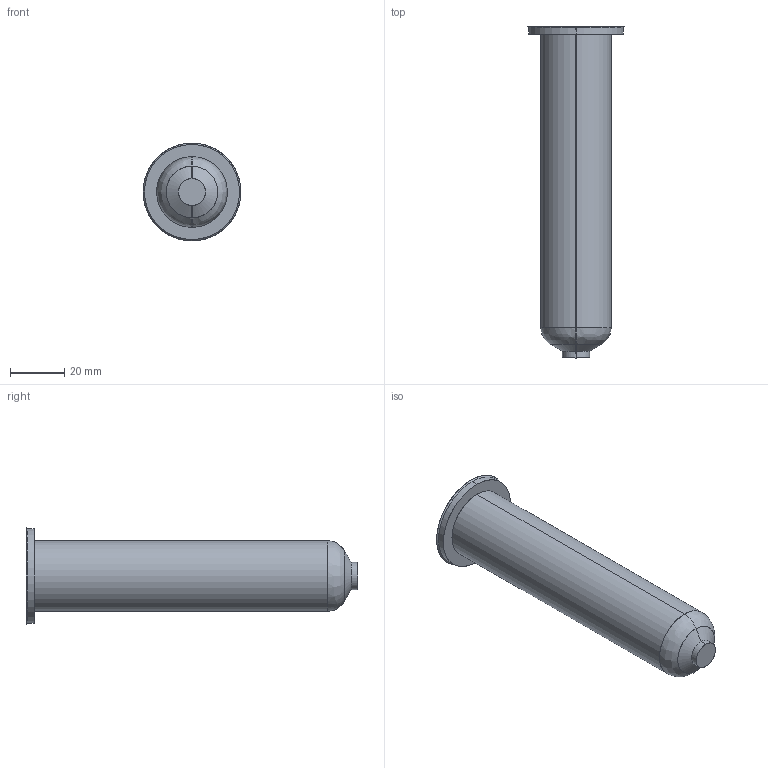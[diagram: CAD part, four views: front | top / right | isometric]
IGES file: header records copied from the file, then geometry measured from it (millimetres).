
Start section: SolidWorks IGES file using analytic representation for surfaces
Global section: file name: C:\Users\luca.EMPAD\Desktop\TEM\Sede UGBE3503-M-A C-119 L-149 P-0.IGS; native system: SolidWorks 2012; preprocessor: SolidWorks 2012; author: luca; date: 120330.142749; units: millimetre
Bounding box: 36 x 122.3 x 36 mm (x, y, z)
Surface area: 11572.6 mm2 (no closed solid volume)
Topology: 0 solids, 0 shells, 15 faces, 240 edges, 240 vertices
Faces by surface type: revolution 10, bspline 5
